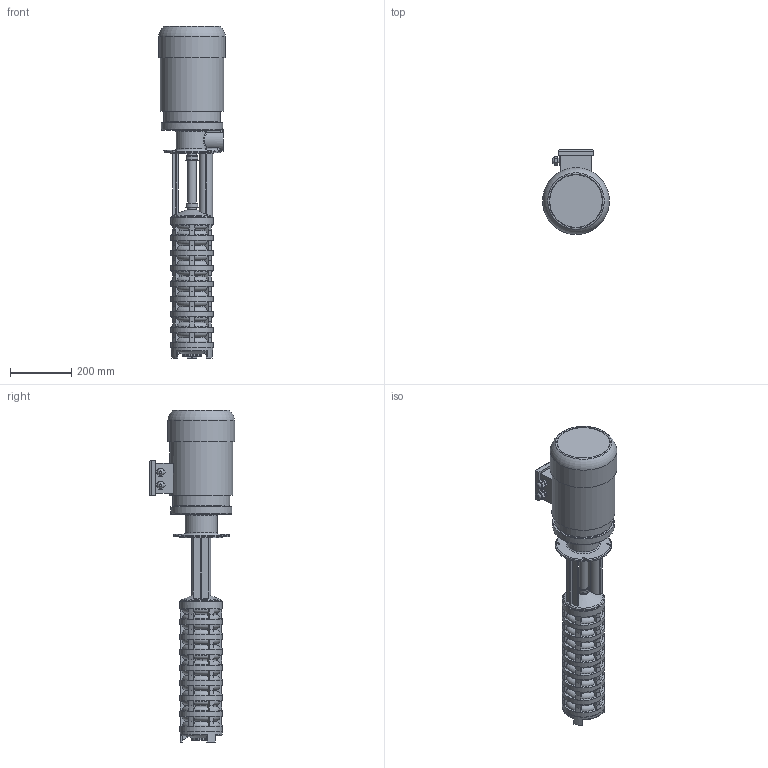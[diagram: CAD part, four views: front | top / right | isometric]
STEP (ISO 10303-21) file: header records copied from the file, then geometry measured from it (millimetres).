
FILE_DESCRIPTION(/* description */ ('Unknown'),/* implementation_level */ '2;1');
FILE_NAME(/* name */ 'gp9-670',/* time_stamp */ '2025-06-17T14:06:46+03:00',/* author */ ('Unknown'),/* organization */ ('Unknown'),/* preprocessor_version */ 'ST-DEVELOPER v16.7',/* originating_system */ 'DEX',/* authorisation */ $);
FILE_SCHEMA (('AUTOMOTIVE_DESIGN {1 0 10303 214 3 1 1}'));
Length unit declared in the file: millimetre
Products named in the file (1): gp9-670
Bounding box: 218 x 277.5 x 1083 mm (x, y, z)
Volume: 19707252.5 mm3; surface area: 788192.9 mm2
Topology: 1 solids, 1 shells, 676 faces, 1849 edges, 1210 vertices
Faces by surface type: plane 223, cone 129, cylinder 124, torus 116, bspline 84
Full cylindrical faces by diameter (mm): 17 x2, 21.5 x2, 29 x3, 33 x2, 35 x2, 39 x2, 40.5 x2, 45 x1, 47 x1, 60 x1, 137 x1, 139 x9, 140 x1, 185.379 x1, 200 x1, 206 x1, 218 x1
Entity records: 23920 total; most frequent: CARTESIAN_POINT 7229, ORIENTED_EDGE 3490, DIRECTION 3454, EDGE_CURVE 1745, AXIS2_PLACEMENT_3D 1323, VERTEX_POINT 1180, LINE 808, VECTOR 808
